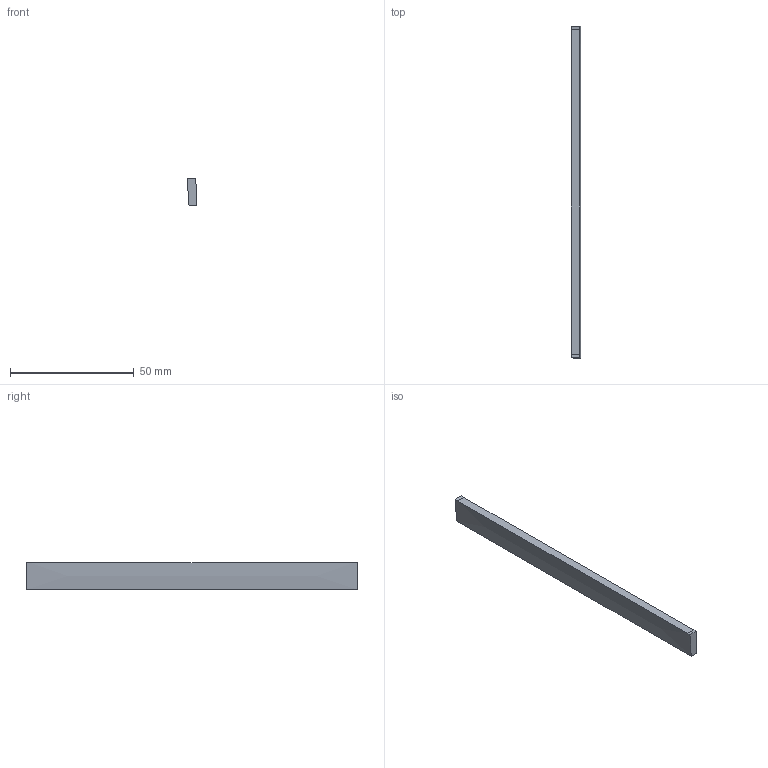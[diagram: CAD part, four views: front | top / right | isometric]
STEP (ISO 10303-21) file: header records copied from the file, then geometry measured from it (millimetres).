
FILE_DESCRIPTION(('Open CASCADE Model'),'2;1');
FILE_NAME('Open CASCADE Shape Model','2026-11-03T04:29:34',('Author'),( 'Open CASCADE'),'Open CASCADE STEP processor 7.8','Open CASCADE 7.8' ,'Unknown');
FILE_SCHEMA(('AUTOMOTIVE_DESIGN { 1 0 10303 214 1 1 1 1 }'));
Length unit declared in the file: millimetre
Products named in the file (1): Open CASCADE STEP translator 7.8 23
Bounding box: 3.95 x 134 x 11.16 mm (x, y, z)
Volume: 4943.6 mm3; surface area: 3925 mm2
Topology: 1 solids, 1 shells, 8 faces, 22 edges, 16 vertices
Faces by surface type: plane 4, bspline 2, cylinder 2
Entity records: 1090 total; most frequent: CARTESIAN_POINT 731, B_SPLINE_CURVE_WITH_KNOTS 49, ORIENTED_EDGE 44, PCURVE 44, DEFINITIONAL_REPRESENTATION 44, DIRECTION 31, EDGE_CURVE 22, SURFACE_CURVE 22
